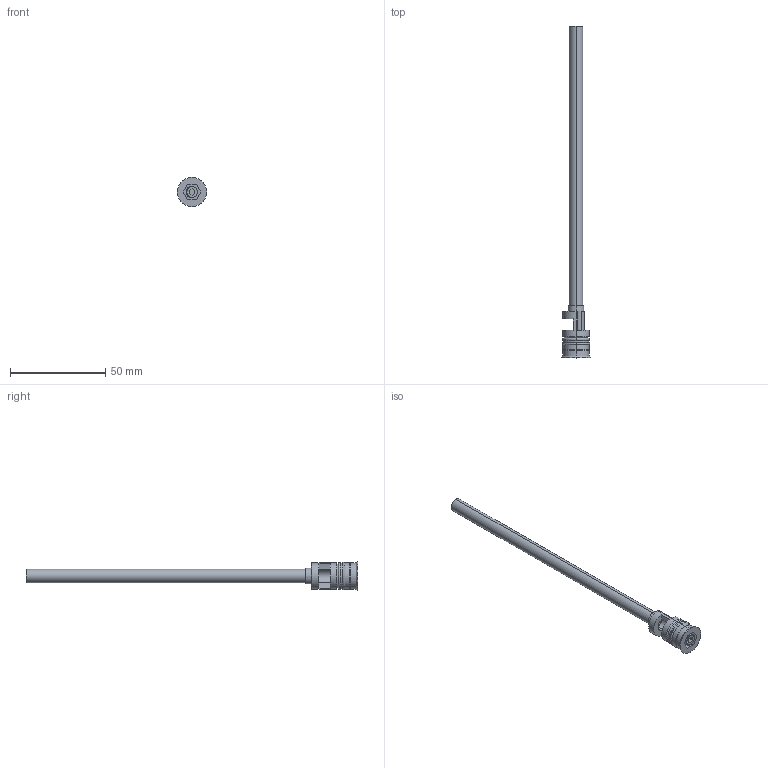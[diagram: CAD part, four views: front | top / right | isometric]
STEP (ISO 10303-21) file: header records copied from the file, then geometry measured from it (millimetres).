
FILE_DESCRIPTION (( 'STEP AP203' ), '1' );
FILE_NAME ('RF-14Fx150.STEP', '2015-11-20T10:29:01', ( 'Balzi' ), ( '' ), 'SwSTEP 2.0', 'SolidWorks 2015', '' );
FILE_SCHEMA (( 'CONFIG_CONTROL_DESIGN' ));
Length unit declared in the file: millimetre
Products named in the file (1): RF-14Fx150
Bounding box: 15.3 x 174.5 x 15.3 mm (x, y, z)
Volume: 4082.5 mm3; surface area: 8075.9 mm2
Topology: 1 solids, 1 shells, 71 faces, 164 edges, 102 vertices
Faces by surface type: cylinder 26, plane 25, cone 12, torus 8
Entity records: 2114 total; most frequent: DIRECTION 385, CARTESIAN_POINT 357, ORIENTED_EDGE 328, EDGE_CURVE 164, AXIS2_PLACEMENT_3D 154, VERTEX_POINT 102, CIRCLE 82, EDGE_LOOP 80
